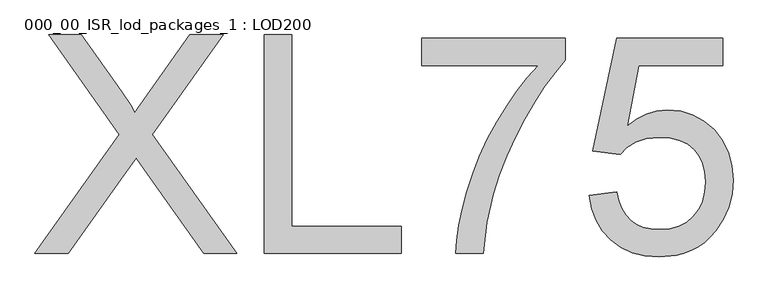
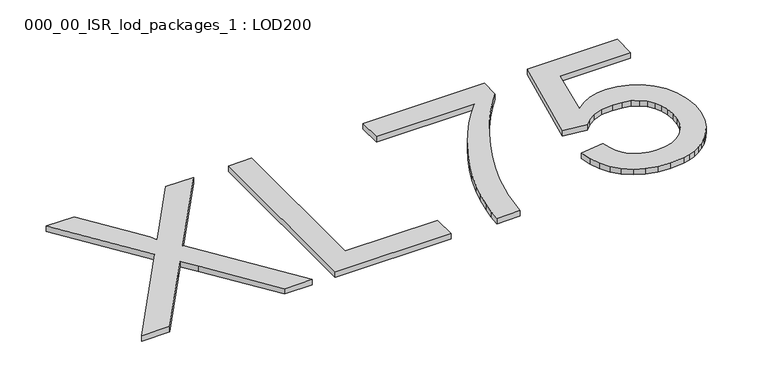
"""IFC4 building model written with IfcOpenShell, lengths in millimetres: proxy geometry, 000_00_ISR_lod_packages_1 : LOD200."""

import ifcopenshell
import ifcopenshell.guid

model = None  # the IFC model being written
_history = None  # IfcOwnerHistory: only IFC2X3 demands one
_inside = {}  # id of a spatial element -> (the spatial element, [elements in it])
_under = {}  # id of a project, library or spatial element -> (it, [spatial elements below it])
_declared = {}  # id of a project -> (the project, [libraries it declares])
_typed = {}  # id of a type object -> (the type object, [elements of that type])
_made_of = {}  # id of a material, layer set ... -> (it, [elements and type objects made of it])


def new_model(schema):
    """Start an empty IFC model of exactly this schema.

    Asked for "IFC4X3", IfcOpenShell would pick the latest addendum, in which some entities
    have other attributes; the version numbers below select the first issue.
    IFC2X3 requires an IfcOwnerHistory on every rooted entity: one is made here for all.
    """
    global model, _history
    if schema == "IFC4X3":
        model = ifcopenshell.file(schema_version=(4, 3, 0, 0))
    else:
        model = ifcopenshell.file(schema=schema)
    _inside.clear()
    _under.clear()
    _declared.clear()
    _typed.clear()
    _made_of.clear()
    _history = None
    if model.schema == "IFC2X3":
        org = make("IfcOrganization", Name="unknown")
        user = make(
            "IfcPersonAndOrganization",
            ThePerson=make("IfcPerson", FamilyName="unknown"),
            TheOrganization=org,
        )
        app = make(
            "IfcApplication",
            ApplicationDeveloper=org,
            Version="unknown",
            ApplicationFullName="unknown",
            ApplicationIdentifier="unknown",
        )
        _history = make(
            "IfcOwnerHistory",
            OwningUser=user,
            OwningApplication=app,
            ChangeAction="ADDED",
            CreationDate=0,
        )
    return model


def make(cls, **values):
    """One entity of the class cls with the attributes given. An attribute that is None is left unset."""
    return model.create_entity(
        cls, **{name: value for name, value in values.items() if value is not None}
    )


def rooted(cls, **values):
    """An entity with a GlobalId (a new one), such as an element, a storey or a relation."""
    return make(cls, GlobalId=ifcopenshell.guid.new(), OwnerHistory=_history, **values)


def si_unit(unit_type, name, prefix=None):
    """IfcSIUnit, for example si_unit("LENGTHUNIT", "METRE", prefix="MILLI")."""
    return make("IfcSIUnit", UnitType=unit_type, Prefix=prefix, Name=name)


def assignment(units):
    """IfcUnitAssignment: the units of a project."""
    return None if units is None else make("IfcUnitAssignment", Units=units)


def point(xyz):
    """IfcCartesianPoint."""
    return None if xyz is None else make("IfcCartesianPoint", Coordinates=xyz)


def direction(xyz):
    """IfcDirection."""
    return None if xyz is None else make("IfcDirection", DirectionRatios=xyz)


def frame(location, z_axis=None, x_axis=None):
    """IfcAxis2Placement3D, a coordinate frame: its origin and axes. An axis left out is left unset."""
    return make(
        "IfcAxis2Placement3D",
        Location=point(location),
        Axis=direction(z_axis),
        RefDirection=direction(x_axis),
    )


def origin():
    """The frame at (0, 0, 0) with its axes left unset."""
    return frame((0.0, 0.0, 0.0))


def origin_with_axes():
    """The frame at (0, 0, 0) with the z axis (0, 0, 1) and the x axis (1, 0, 0) written out."""
    return frame((0.0, 0.0, 0.0), z_axis=(0.0, 0.0, 1.0), x_axis=(1.0, 0.0, 0.0))


def place(relative_to, where):
    """IfcLocalPlacement: puts the frame where relative to a parent placement (None: the world)."""
    return make(
        "IfcLocalPlacement", PlacementRelTo=relative_to, RelativePlacement=where
    )


def context(
    kind, dimensions, precision=None, world=None, true_north=None, identifier=None
):
    """IfcGeometricRepresentationContext, for example the 3D "Model" context."""
    return make(
        "IfcGeometricRepresentationContext",
        ContextIdentifier=identifier,
        ContextType=kind,
        CoordinateSpaceDimension=dimensions,
        Precision=precision,
        WorldCoordinateSystem=world,
        TrueNorth=true_north,
    )


def project(units=None, contexts=None):
    """IfcProject with its units and contexts."""
    return rooted(
        "IfcProject",
        Name="project",
        RepresentationContexts=contexts,
        UnitsInContext=assignment(units),
    )


def spatial(cls, under=None, at=None, **own):
    """A site, building, storey or space (cls), placed at a placement, below another one or the project."""
    s = rooted(cls, ObjectPlacement=at, **own)
    if under is not None:
        _under.setdefault(under.id(), (under, []))[1].append(s)
    return s


def polyline(points):
    """IfcPolyline through the points."""
    return make("IfcPolyline", Points=[point(p) for p in points])


def outline(outer, holes=None, kind="AREA"):
    """IfcArbitraryClosedProfileDef: a profile drawn as a closed curve; with holes, ...WithVoids."""
    if holes is None:
        return make("IfcArbitraryClosedProfileDef", ProfileType=kind, OuterCurve=outer)
    return make(
        "IfcArbitraryProfileDefWithVoids",
        ProfileType=kind,
        OuterCurve=outer,
        InnerCurves=holes,
    )


def extrude(swept, where, along, depth):
    """IfcExtrudedAreaSolid: the profile swept, set in the frame where, extruded along a direction by depth."""
    return make(
        "IfcExtrudedAreaSolid",
        SweptArea=swept,
        Position=where,
        ExtrudedDirection=direction(along),
        Depth=depth,
    )


def shape(context_of_items, identifier, shape_type, items):
    """IfcShapeRepresentation: the items that make up one representation, for example the "Body"."""
    return make(
        "IfcShapeRepresentation",
        ContextOfItems=context_of_items,
        RepresentationIdentifier=identifier,
        RepresentationType=shape_type,
        Items=items,
    )


def source(mapping_origin, context_of_items, identifier, shape_type, items):
    """IfcRepresentationMap: a shape defined once, which mapped items show again and again."""
    return make(
        "IfcRepresentationMap",
        MappingOrigin=mapping_origin,
        MappedRepresentation=shape(context_of_items, identifier, shape_type, items),
    )


def transform(
    local_origin,
    x_axis=None,
    y_axis=None,
    z_axis=None,
    scale=None,
    scale2=None,
    scale3=None,
    uniform=True,
):
    """IfcCartesianTransformationOperator3D, or its non-uniform kind. x_axis, y_axis, z_axis: its Axis1, 2, 3."""
    if uniform:
        return make(
            "IfcCartesianTransformationOperator3D",
            Axis1=direction(x_axis),
            Axis2=direction(y_axis),
            LocalOrigin=point(local_origin),
            Scale=scale,
            Axis3=direction(z_axis),
        )
    return make(
        "IfcCartesianTransformationOperator3DnonUniform",
        Axis1=direction(x_axis),
        Axis2=direction(y_axis),
        LocalOrigin=point(local_origin),
        Scale=scale,
        Axis3=direction(z_axis),
        Scale2=scale2,
        Scale3=scale3,
    )


def mapped(mapping_source, mapping_target):
    """IfcMappedItem: shows the shape of a source again, moved by a transform."""
    return make(
        "IfcMappedItem", MappingSource=mapping_source, MappingTarget=mapping_target
    )


def made_of(thing, what):
    """Note that an element or type object is made of a material, layer set ...; save() writes the relation."""
    if what is not None:
        _made_of.setdefault(what.id(), (what, []))[1].append(thing)
    return thing


def element(
    cls,
    number,
    at=None,
    inside=None,
    cuts=None,
    type_object=None,
    material=None,
    context=None,
    identifier="Body",
    shape_type=None,
    held_by="IfcProductDefinitionShape",
    body=None,
    shapes=None,
    **own,
):
    """One element of the class cls, such as IfcWall. Its Tag is "e" and its number.

    at: its placement. inside: the storey or other place that contains it. cuts: it is an
    opening in that element (IfcRelVoidsElement). A single representation is given by context,
    identifier, shape_type and body (its items); several are given by shapes. held_by: the class
    of the entity that holds the representations. save() writes the other relations.
    """
    e = rooted(cls, Tag="e%d" % number, ObjectPlacement=at, **own)
    if body is not None:
        shapes = [shape(context, identifier, shape_type, body)]
    if shapes is not None:
        e.Representation = make(held_by, Representations=shapes)
    if inside is not None:
        _inside.setdefault(inside.id(), (inside, []))[1].append(e)
    if cuts is not None:
        rooted(
            "IfcRelVoidsElement", RelatingBuildingElement=cuts, RelatedOpeningElement=e
        )
    if type_object is not None:
        _typed.setdefault(type_object.id(), (type_object, []))[1].append(e)
    return made_of(e, material)


def aggregate(whole, parts):
    """IfcRelAggregates: a whole, such as a stair, and the parts it consists of."""
    return rooted("IfcRelAggregates", RelatingObject=whole, RelatedObjects=parts)


def save(model, path):
    """Write the relations noted so far, then the file.

    IfcRelAggregates (storeys below a building ...), IfcRelContainedInSpatialStructure (elements
    in a storey), IfcRelDefinesByType, IfcRelAssociatesMaterial and IfcRelDeclares: one each for
    every whole, place, type object, material and project.
    """
    for whole, parts in _under.values():
        aggregate(whole, parts)
    for where, things in _inside.values():
        rooted(
            "IfcRelContainedInSpatialStructure",
            RelatedElements=things,
            RelatingStructure=where,
        )
    for kind, things in _typed.values():
        rooted("IfcRelDefinesByType", RelatedObjects=things, RelatingType=kind)
    for what, things in _made_of.values():
        rooted("IfcRelAssociatesMaterial", RelatedObjects=things, RelatingMaterial=what)
    for by, libraries in _declared.values():
        rooted("IfcRelDeclares", RelatingContext=by, RelatedDefinitions=libraries)
    model.write(path)


def proxy_000_00_isr_lod_packages_1_lod200_1a16044f(model_context):
    return source(origin(), model_context, "Body", "SweptSolid", [
        extrude(outline(polyline([(500.0, 500.0), (808.1627819, 935.6043884), (549.9617936, 1299.3886983), (669.7920331, 1299.3886983), (815.1886591, 1094.6624423), (849.878928, 1042.7978069), (864.1746365, 1014.8406705), (921.5526339, 1096.0285851), (1065.3879539, 1299.3886983), (1186.9746626, 1299.3886983), (928.7736744, 934.4334088), (1236.9364563, 500.0), (1117.1062168, 500.0), (911.7944711, 789.6222725), (869.0537179, 849.7325555), (822.0193731, 783.7673749), (621.5867088, 500.0), (500.0, 500.0)])), origin_with_axes(), (0.0, 0.0, 1.0), 25.0),
        extrude(outline(polyline([(1336.8600436, 500.0), (1336.8600436, 1299.3886983), (1436.7836309, 1299.3886983), (1436.7836309, 599.9235873), (1836.47798, 599.9235873), (1836.47798, 500.0), (1336.8600436, 500.0)])), origin_with_axes(), (0.0, 0.0, 1.0), 25.0),
        extrude(outline(polyline([(1911.4206705, 1186.9746626), (1911.4206705, 1286.8982499), (2436.0195038, 1286.8982499), (2436.0195038, 1206.1006618), (2398.5420597, 1161.9998647), (2361.2475812, 1111.4708778), (2324.1360682, 1054.5137012), (2287.2075208, 991.1283348), (2252.4623623, 924.059262), (2221.9010161, 856.050966), (2195.5234822, 787.1034468), (2173.3297606, 717.2167044), (2149.5198434, 613.3410612), (2136.2487419, 500.0), (2036.3251546, 500.0), (2039.4660633, 549.0713613), (2047.13232, 602.9974086), (2059.3239246, 661.7781419), (2076.0408773, 725.4135612), (2097.0880147, 790.8847349), (2122.2701737, 855.1727313), (2151.5873541, 918.2775505), (2185.039556, 980.1991924), (2221.1203631, 1039.1201993), (2258.3233588, 1093.2231133), (2296.6485433, 1142.5079344), (2336.0959165, 1186.9746626), (1911.4206705, 1186.9746626)])), origin_with_axes(), (0.0, 0.0, 1.0), 25.0),
        extrude(outline(polyline([(2523.4526427, 712.337623), (2623.37623, 724.8280714), (2630.8412245, 692.7054192), (2641.7215761, 664.8397655), (2656.0172846, 641.2311103), (2673.7283501, 621.8794536), (2694.8181795, 606.8091909), (2719.2501797, 596.0447176), (2747.0243506, 589.5860336), (2778.1406923, 587.4331389), (2816.1975273, 590.4276751), (2849.7656074, 599.4112837), (2878.8449326, 614.3839648), (2903.4355029, 635.3457183), (2922.9884217, 661.2597395), (2936.9547922, 691.0892235), (2945.3346146, 724.8341703), (2948.1278887, 762.4945799), (2945.5114813, 798.0874788), (2937.662259, 829.7283217), (2924.580222, 857.4171087), (2906.2653702, 881.1538398), (2882.656715, 900.194455), (2853.693268, 913.7948944), (2819.3750291, 921.9551581), (2779.7019984, 924.675246), (2731.2283246, 920.3328635), (2691.9761146, 907.3057162), (2660.6280165, 887.3502732), (2635.8666784, 862.2230039), (2535.9430911, 874.7134523), (2623.37623, 1286.8982499), (3010.5801307, 1286.8982499), (3010.5801307, 1186.9746626), (2704.1738181, 1186.9746626), (2661.433065, 966.8305094), (2696.6966259, 992.1041511), (2732.814026, 1010.1567523), (2769.7852654, 1020.988313), (2807.610344, 1024.5988333), (2856.2730823, 1020.1222761), (2900.9715668, 1006.6926045), (2941.7057978, 984.3098185), (2978.475775, 952.9739182), (3008.9151442, 914.5999429), (3030.6575507, 871.1029321), (3043.7029947, 822.4828858), (3048.051476, 768.7398041), (3044.1360131, 716.9727503), (3032.3896246, 668.8162168), (3012.8123105, 624.2702035), (2985.4040707, 583.3347105), (2965.5096162, 560.8756889), (2943.8830878, 541.4112035), (2920.5244856, 524.9412543), (2895.4338094, 511.4658413), (2868.6110594, 500.9849646), (2840.0562354, 493.498624), (2777.7503658, 487.5095516), (2726.1845741, 491.3579271), (2679.6076432, 502.9030534), (2638.0195731, 522.1449308), (2601.4203636, 549.083559), (2570.9687968, 582.3771908), (2547.8236543, 620.6840787), (2531.9849363, 664.0042228), (2523.4526427, 712.337623)])), origin_with_axes(), (0.0, 0.0, 1.0), 25.0),
    ])


if __name__ == "__main__":
    model = new_model("IFC4")
    model_context = context("Model", 3, world=origin())
    ifc_project = project(units=[si_unit("LENGTHUNIT", "METRE", prefix="MILLI")], contexts=[model_context])
    site = spatial("IfcSite", under=ifc_project)
    building = spatial("IfcBuilding", under=site)
    placement = place(None, origin())
    proxy_000_00_isr_lod_packages_1_lod200_shape = proxy_000_00_isr_lod_packages_1_lod200_1a16044f(model_context)
    element("IfcBuildingElementProxy", 1, Name="000_00_ISR_lod_packages_1 : LOD200", ObjectType="000_00_ISR_lod_packages_1 : LOD200", at=placement, inside=building, context=model_context, shape_type="MappedRepresentation", body=[
        mapped(proxy_000_00_isr_lod_packages_1_lod200_shape, transform((0.0, 0.0, 0.0), x_axis=(1.0, 0.0, 0.0), y_axis=(0.0, 1.0, 0.0), z_axis=(0.0, 0.0, 1.0))),
    ])
    save(model, "model.ifc")
